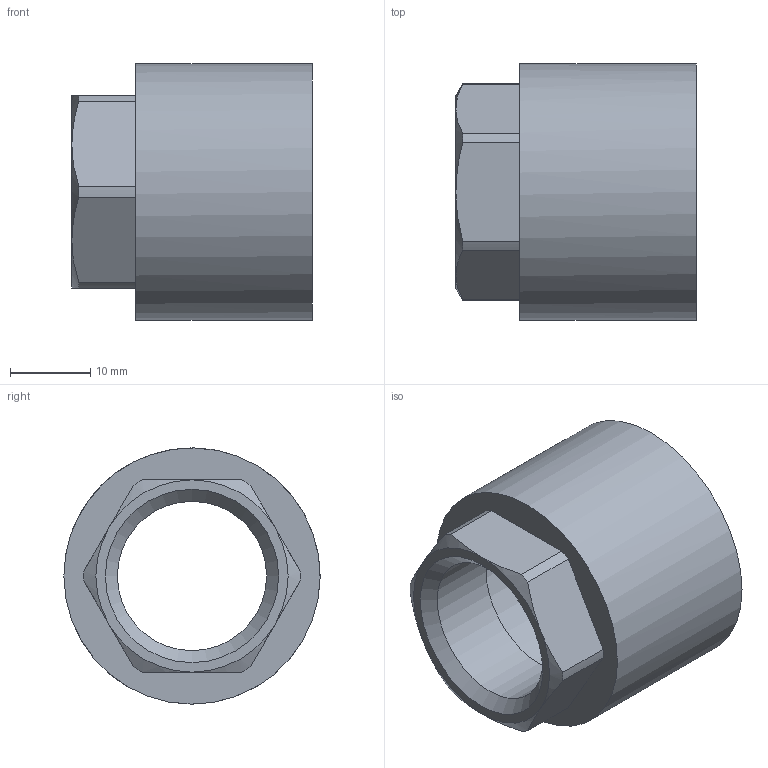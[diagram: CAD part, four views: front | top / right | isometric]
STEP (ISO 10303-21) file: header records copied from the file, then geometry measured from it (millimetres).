
FILE_DESCRIPTION((''),'2;1');
FILE_NAME('C:\Documents and Settings\pajchrowski\Desktop\STEP\14270_28-12(2).stp','2009-02-02T13:24:56',('pajchrowski'),(''),'Autodesk Inventor 2009','Autodesk Inventor 2009','');
FILE_SCHEMA(('AUTOMOTIVE_DESIGN { 1 0 10303 214 1 1 1 1 }'));
Length unit declared in the file: millimetre
Products named in the file (1): 14270_28-12(2)
Bounding box: 30 x 32 x 32 mm (x, y, z)
Volume: 6852.2 mm3; surface area: 6139.5 mm2
Topology: 1 solids, 1 shells, 27 faces, 62 edges, 39 vertices
Faces by surface type: plane 10, cylinder 9, cone 8
Full cylindrical faces by diameter (mm): 18.63 x1, 28 x1, 32 x1
Entity records: 750 total; most frequent: CARTESIAN_POINT 146, DIRECTION 126, ORIENTED_EDGE 112, EDGE_CURVE 56, AXIS2_PLACEMENT_3D 54, VERTEX_POINT 38, EDGE_LOOP 36, FACE_OUTER_BOUND 27
